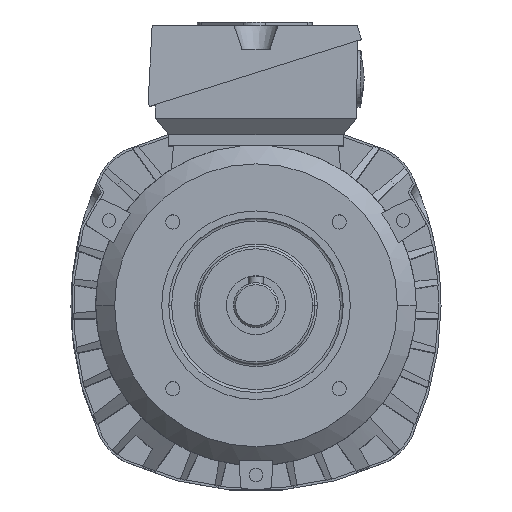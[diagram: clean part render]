
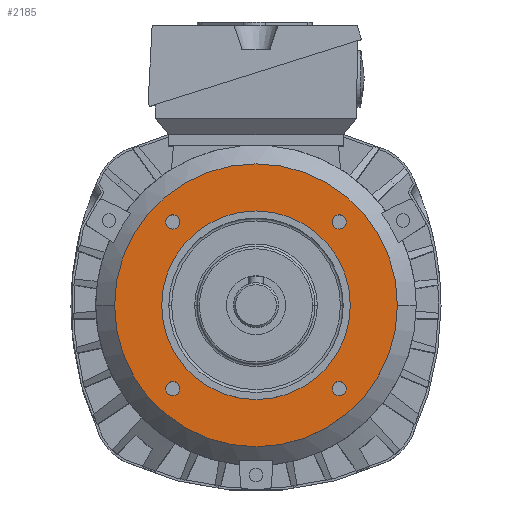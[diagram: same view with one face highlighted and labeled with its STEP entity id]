
A CAD part, top view. The second image highlights one B-rep face of the part: STEP entity #2185.
In plain terms, the highlighted planar face has unit normal (0, 0, 1).
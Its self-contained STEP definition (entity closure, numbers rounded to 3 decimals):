
#106 = CARTESIAN_POINT ( 'NONE',  ( 60., 0., 4. ) ) ;
#353 = CARTESIAN_POINT ( 'NONE',  ( -38.355, 35.355, 4. ) ) ;
#366 = DIRECTION ( 'NONE',  ( 0., 0., 1. ) ) ;
#549 = VERTEX_POINT ( 'NONE', #1859 ) ;
#708 = CARTESIAN_POINT ( 'NONE',  ( 0., 0., 4. ) ) ;
#710 = CARTESIAN_POINT ( 'NONE',  ( 0., 0., 4. ) ) ;
#755 = DIRECTION ( 'NONE',  ( 0., 0., 1. ) ) ;
#771 = CARTESIAN_POINT ( 'NONE',  ( -35.355, -35.355, 4. ) ) ;
#938 = EDGE_LOOP ( 'NONE', ( #3415, #7071 ) ) ;
#1088 = ORIENTED_EDGE ( 'NONE', *, *, #14563, .F. ) ;
#1121 = DIRECTION ( 'NONE',  ( 0., -1., 0. ) ) ;
#1305 = PLANE ( 'NONE',  #11958 ) ;
#1360 = CARTESIAN_POINT ( 'NONE',  ( -60., 0., 4. ) ) ;
#1475 = VERTEX_POINT ( 'NONE', #9359 ) ;
#1577 = CARTESIAN_POINT ( 'NONE',  ( -38.355, -35.355, 4. ) ) ;
#1820 = DIRECTION ( 'NONE',  ( 0., 0., 1. ) ) ;
#1859 = CARTESIAN_POINT ( 'NONE',  ( -32.355, -35.355, 4. ) ) ;
#1860 = AXIS2_PLACEMENT_3D ( 'NONE', #3437, #366, #4401 ) ;
#2101 = CARTESIAN_POINT ( 'NONE',  ( 35.355, -35.355, 4. ) ) ;
#2114 = CIRCLE ( 'NONE', #7807, 3. ) ;
#2185 = ADVANCED_FACE ( 'NONE', ( #4647, #7981, #7083, #13630, #12500, #11542 ), #1305, .F. ) ;
#2540 = AXIS2_PLACEMENT_3D ( 'NONE', #710, #1820, #2792 ) ;
#2570 = CIRCLE ( 'NONE', #10870, 3. ) ;
#2765 = CARTESIAN_POINT ( 'NONE',  ( 40., 0., 4. ) ) ;
#2792 = DIRECTION ( 'NONE',  ( 1., 0., 0. ) ) ;
#2840 = DIRECTION ( 'NONE',  ( 0., 1., 0. ) ) ;
#2874 = ORIENTED_EDGE ( 'NONE', *, *, #11522, .F. ) ;
#3055 = EDGE_LOOP ( 'NONE', ( #11456, #12209 ) ) ;
#3140 = DIRECTION ( 'NONE',  ( -1., 0., 0. ) ) ;
#3257 = DIRECTION ( 'NONE',  ( 0., 0., 1. ) ) ;
#3355 = VERTEX_POINT ( 'NONE', #8868 ) ;
#3415 = ORIENTED_EDGE ( 'NONE', *, *, #12385, .F. ) ;
#3437 = CARTESIAN_POINT ( 'NONE',  ( 0., 0., 4. ) ) ;
#3510 = EDGE_CURVE ( 'NONE', #1475, #7047, #13686, .T. ) ;
#3576 = CARTESIAN_POINT ( 'NONE',  ( 35.355, 35.355, 4. ) ) ;
#3725 = AXIS2_PLACEMENT_3D ( 'NONE', #3576, #4981, #13887 ) ;
#3850 = CARTESIAN_POINT ( 'NONE',  ( 32.355, -35.355, 4. ) ) ;
#3879 = AXIS2_PLACEMENT_3D ( 'NONE', #4677, #6597, #11428 ) ;
#4182 = DIRECTION ( 'NONE',  ( 0., 1., 0. ) ) ;
#4401 = DIRECTION ( 'NONE',  ( 1., 0., 0. ) ) ;
#4521 = CARTESIAN_POINT ( 'NONE',  ( -35.355, 35.355, 4. ) ) ;
#4602 = AXIS2_PLACEMENT_3D ( 'NONE', #708, #14289, #12050 ) ;
#4647 = FACE_BOUND ( 'NONE', #3055, .T. ) ;
#4677 = CARTESIAN_POINT ( 'NONE',  ( -35.355, 35.355, 4. ) ) ;
#4887 = ORIENTED_EDGE ( 'NONE', *, *, #12439, .F. ) ;
#4981 = DIRECTION ( 'NONE',  ( 0., 0., 1. ) ) ;
#5257 = EDGE_LOOP ( 'NONE', ( #2874, #1088 ) ) ;
#5270 = EDGE_CURVE ( 'NONE', #7817, #11199, #2114, .T. ) ;
#5341 = AXIS2_PLACEMENT_3D ( 'NONE', #2101, #12260, #6966 ) ;
#5372 = VERTEX_POINT ( 'NONE', #14377 ) ;
#5512 = ORIENTED_EDGE ( 'NONE', *, *, #7233, .T. ) ;
#5598 = AXIS2_PLACEMENT_3D ( 'NONE', #7355, #755, #11883 ) ;
#5891 = VERTEX_POINT ( 'NONE', #1577 ) ;
#6050 = EDGE_LOOP ( 'NONE', ( #5512, #9517 ) ) ;
#6072 = EDGE_LOOP ( 'NONE', ( #12769, #9327 ) ) ;
#6243 = CIRCLE ( 'NONE', #3879, 3. ) ;
#6281 = CIRCLE ( 'NONE', #14594, 3. ) ;
#6307 = CIRCLE ( 'NONE', #5598, 60. ) ;
#6597 = DIRECTION ( 'NONE',  ( 0., 0., 1. ) ) ;
#6739 = DIRECTION ( 'NONE',  ( 0., 0., 1. ) ) ;
#6865 = EDGE_CURVE ( 'NONE', #7047, #1475, #13094, .T. ) ;
#6966 = DIRECTION ( 'NONE',  ( -1., 0., 0. ) ) ;
#7047 = VERTEX_POINT ( 'NONE', #2765 ) ;
#7071 = ORIENTED_EDGE ( 'NONE', *, *, #5270, .F. ) ;
#7083 = FACE_BOUND ( 'NONE', #13332, .T. ) ;
#7233 = EDGE_CURVE ( 'NONE', #11143, #9028, #6307, .T. ) ;
#7280 = DIRECTION ( 'NONE',  ( 0., 0., 1. ) ) ;
#7355 = CARTESIAN_POINT ( 'NONE',  ( 0., 0., 4. ) ) ;
#7495 = EDGE_CURVE ( 'NONE', #3355, #8094, #14633, .T. ) ;
#7738 = DIRECTION ( 'NONE',  ( 0., 0., 1. ) ) ;
#7807 = AXIS2_PLACEMENT_3D ( 'NONE', #4521, #3257, #14539 ) ;
#7817 = VERTEX_POINT ( 'NONE', #353 ) ;
#7981 = FACE_BOUND ( 'NONE', #5257, .T. ) ;
#8094 = VERTEX_POINT ( 'NONE', #9303 ) ;
#8124 = CARTESIAN_POINT ( 'NONE',  ( -32.355, 35.355, 4. ) ) ;
#8780 = CARTESIAN_POINT ( 'NONE',  ( 35.355, -35.355, 4. ) ) ;
#8868 = CARTESIAN_POINT ( 'NONE',  ( 32.355, 35.355, 4. ) ) ;
#9028 = VERTEX_POINT ( 'NONE', #1360 ) ;
#9179 = CIRCLE ( 'NONE', #14166, 3. ) ;
#9303 = CARTESIAN_POINT ( 'NONE',  ( 38.355, 35.355, 4. ) ) ;
#9327 = ORIENTED_EDGE ( 'NONE', *, *, #3510, .F. ) ;
#9359 = CARTESIAN_POINT ( 'NONE',  ( -40., 0., 4. ) ) ;
#9517 = ORIENTED_EDGE ( 'NONE', *, *, #11631, .T. ) ;
#10174 = EDGE_CURVE ( 'NONE', #549, #5891, #9179, .T. ) ;
#10227 = DIRECTION ( 'NONE',  ( -1., 0., 0. ) ) ;
#10371 = DIRECTION ( 'NONE',  ( 0., 0., -1. ) ) ;
#10870 = AXIS2_PLACEMENT_3D ( 'NONE', #8780, #7738, #3140 ) ;
#11143 = VERTEX_POINT ( 'NONE', #106 ) ;
#11199 = VERTEX_POINT ( 'NONE', #8124 ) ;
#11232 = CIRCLE ( 'NONE', #12880, 3. ) ;
#11428 = DIRECTION ( 'NONE',  ( 1., 0., 0. ) ) ;
#11456 = ORIENTED_EDGE ( 'NONE', *, *, #10174, .F. ) ;
#11522 = EDGE_CURVE ( 'NONE', #5372, #13644, #2570, .T. ) ;
#11542 = FACE_OUTER_BOUND ( 'NONE', #6050, .T. ) ;
#11631 = EDGE_CURVE ( 'NONE', #9028, #11143, #13233, .T. ) ;
#11883 = DIRECTION ( 'NONE',  ( 1., 0., 0. ) ) ;
#11958 = AXIS2_PLACEMENT_3D ( 'NONE', #12719, #10371, #10227 ) ;
#12050 = DIRECTION ( 'NONE',  ( 1., 0., 0. ) ) ;
#12209 = ORIENTED_EDGE ( 'NONE', *, *, #14367, .F. ) ;
#12260 = DIRECTION ( 'NONE',  ( 0., 0., 1. ) ) ;
#12385 = EDGE_CURVE ( 'NONE', #11199, #7817, #6243, .T. ) ;
#12439 = EDGE_CURVE ( 'NONE', #8094, #3355, #11232, .T. ) ;
#12500 = FACE_BOUND ( 'NONE', #6072, .T. ) ;
#12719 = CARTESIAN_POINT ( 'NONE',  ( 0., 40., 4. ) ) ;
#12769 = ORIENTED_EDGE ( 'NONE', *, *, #6865, .F. ) ;
#12880 = AXIS2_PLACEMENT_3D ( 'NONE', #14549, #6739, #1121 ) ;
#13094 = CIRCLE ( 'NONE', #4602, 40. ) ;
#13233 = CIRCLE ( 'NONE', #1860, 60. ) ;
#13258 = ORIENTED_EDGE ( 'NONE', *, *, #7495, .F. ) ;
#13332 = EDGE_LOOP ( 'NONE', ( #4887, #13258 ) ) ;
#13630 = FACE_BOUND ( 'NONE', #938, .T. ) ;
#13644 = VERTEX_POINT ( 'NONE', #3850 ) ;
#13657 = CIRCLE ( 'NONE', #5341, 3. ) ;
#13686 = CIRCLE ( 'NONE', #2540, 40. ) ;
#13887 = DIRECTION ( 'NONE',  ( 0., -1., 0. ) ) ;
#14166 = AXIS2_PLACEMENT_3D ( 'NONE', #14198, #7280, #2840 ) ;
#14198 = CARTESIAN_POINT ( 'NONE',  ( -35.355, -35.355, 4. ) ) ;
#14218 = DIRECTION ( 'NONE',  ( 0., 0., 1. ) ) ;
#14289 = DIRECTION ( 'NONE',  ( 0., 0., 1. ) ) ;
#14367 = EDGE_CURVE ( 'NONE', #5891, #549, #6281, .T. ) ;
#14377 = CARTESIAN_POINT ( 'NONE',  ( 38.355, -35.355, 4. ) ) ;
#14539 = DIRECTION ( 'NONE',  ( 1., 0., 0. ) ) ;
#14549 = CARTESIAN_POINT ( 'NONE',  ( 35.355, 35.355, 4. ) ) ;
#14563 = EDGE_CURVE ( 'NONE', #13644, #5372, #13657, .T. ) ;
#14594 = AXIS2_PLACEMENT_3D ( 'NONE', #771, #14218, #4182 ) ;
#14633 = CIRCLE ( 'NONE', #3725, 3. ) ;
